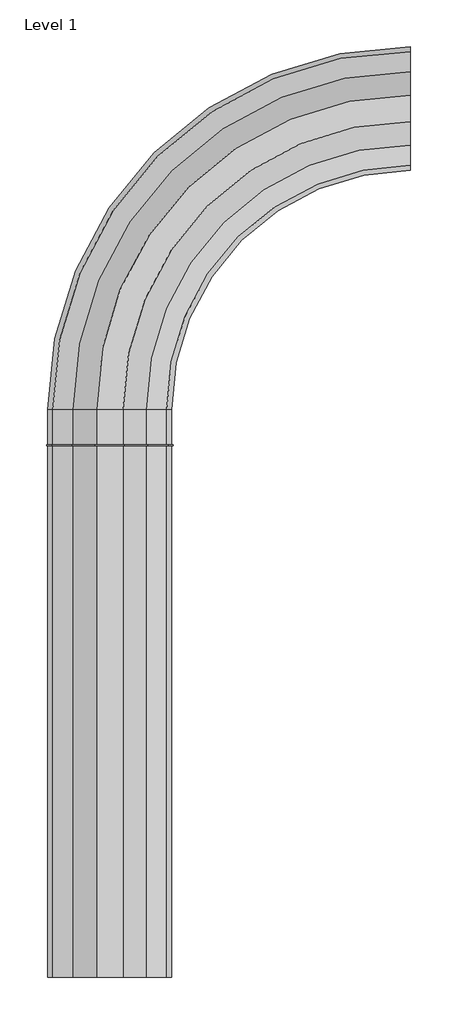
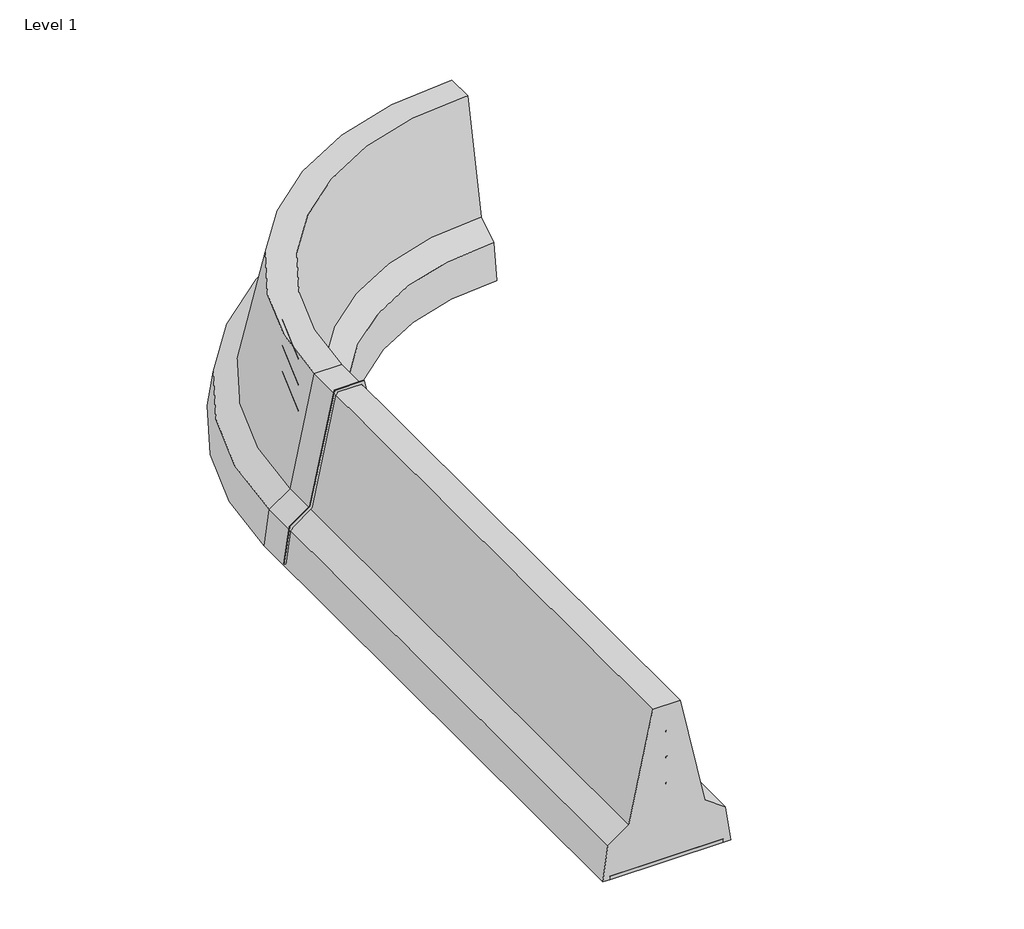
# One storey: 1 railing.
"""IFC4 building model written with IfcOpenShell, lengths in millimetres."""

from ifc_helpers import new_model, si_unit, point, frame, origin, place, context, project, spatial, polyline, circle_curve, ellipse_curve, trimmed, outline, extrude, element, save
from ifc_brep_helpers import plane_surface, cylinder_surface, revolved_surface, advanced_brep

model = new_model("IFC4")

# Units and contexts
model_context = context("Model", 3, world=origin())
ifc_project = project(units=[si_unit("LENGTHUNIT", "METRE", prefix="MILLI")], contexts=[model_context])

# Site, building, storey
site = spatial("IfcSite", under=ifc_project)
building = spatial("IfcBuilding", under=site)
storey = spatial("IfcBuildingStorey", under=building, Name="Level 1", Elevation=0.0)

# Railing
placement = place(None, origin())
element("IfcRailing", 1, ObjectType="BHDEG0-0a-H2", at=placement, inside=storey, context=model_context, shape_type="SolidModel", body=[
    advanced_brep(
    [(-75.0, 0.0, 900.0), (-207.0, 0.0, 280.0), (-321.0, 0.0, 200.0), (-349.0, 0.0, 0.0), (-310.0, 0.0, 0.0), (-310.0, 0.0, 20.0), (310.0, 0.0, 20.0), (310.0, 0.0, 0.0), (349.0, 0.0, 0.0), (321.0, 0.0, 200.0), (207.0, 0.0, 280.0), (75.0, 0.0, 900.0), (-75.0, 3200.0, 900.0), (-207.0, 3200.0, 280.0), (-321.0, 3200.0, 200.0), (-349.0, 3200.0, 0.0), (-310.0, 3200.0, 0.0), (-310.0, 3200.0, 20.0), (310.0, 3200.0, 20.0), (310.0, 3200.0, 0.0), (349.0, 3200.0, 0.0), (321.0, 3200.0, 200.0), (207.0, 3200.0, 280.0), (75.0, 3200.0, 900.0), (1697.0562748, 5104.0562748, 280.0), (1697.0562748, 4972.0562748, 900.0), (1697.0562748, 5218.0562748, 200.0), (1697.0562748, 5246.0562748, 0.0), (1697.0562748, 5207.0562748, 0.0), (1697.0562748, 5207.0562748, 20.0), (1697.0562748, 4587.0562748, 20.0), (1697.0562748, 4587.0562748, 0.0), (1697.0562748, 4548.0562748, 0.0), (1697.0562748, 4576.0562748, 200.0), (1697.0562748, 4690.0562748, 280.0), (1697.0562748, 4822.0562748, 900.0)],
    [
        (0, 1),
        (1, 2),
        (2, 3),
        (3, 4),
        (4, 5),
        (5, 6),
        (6, 7),
        (7, 8),
        (8, 9),
        (9, 10),
        (10, 11),
        (11, 0),
        (0, 12),
        (12, 13),
        (13, 1),
        (13, 14),
        (14, 2),
        (14, 15),
        (15, 3),
        (15, 16),
        (16, 4),
        (16, 17),
        (17, 5),
        (17, 18),
        (18, 6),
        (18, 19),
        (19, 7),
        (19, 20),
        (20, 8),
        (20, 21),
        (21, 9),
        (21, 22),
        (22, 10),
        (22, 23),
        (23, 11),
        (23, 12),
        (24, 13, circle_curve(frame((1697.0562748, 3200.0, 280.0), z_axis=(0.0, 0.0, 1.0), x_axis=(-1.0, 0.0, 0.0)), 1904.0562748)),
        (12, 25, circle_curve(frame((1697.0562748, 3200.0, 900.0), z_axis=(0.0, 0.0, -1.0), x_axis=(-1.0, 0.0, 0.0)), 1772.0562748)),
        (25, 24),
        (26, 14, circle_curve(frame((1697.0562748, 3200.0, 200.0), z_axis=(0.0, 0.0, 1.0), x_axis=(-1.0, 0.0, 0.0)), 2018.0562748)),
        (24, 26),
        (27, 15, circle_curve(frame((1697.0562748, 3200.0, 0.0), z_axis=(0.0, 0.0, 1.0), x_axis=(-1.0, 0.0, 0.0)), 2046.0562748)),
        (26, 27),
        (28, 16, circle_curve(frame((1697.0562748, 3200.0, 0.0), z_axis=(0.0, 0.0, 1.0), x_axis=(-1.0, 0.0, 0.0)), 2007.0562748)),
        (27, 28),
        (29, 17, circle_curve(frame((1697.0562748, 3200.0, 20.0), z_axis=(0.0, 0.0, 1.0), x_axis=(-1.0, 0.0, 0.0)), 2007.0562748)),
        (28, 29),
        (30, 18, circle_curve(frame((1697.0562748, 3200.0, 20.0), z_axis=(0.0, 0.0, 1.0), x_axis=(-1.0, 0.0, 0.0)), 1387.0562748)),
        (29, 30),
        (31, 19, circle_curve(frame((1697.0562748, 3200.0, 0.0), z_axis=(0.0, 0.0, 1.0), x_axis=(-1.0, 0.0, 0.0)), 1387.0562748)),
        (30, 31),
        (32, 20, circle_curve(frame((1697.0562748, 3200.0, 0.0), z_axis=(0.0, 0.0, 1.0), x_axis=(-1.0, 0.0, 0.0)), 1348.0562748)),
        (31, 32),
        (33, 21, circle_curve(frame((1697.0562748, 3200.0, 200.0), z_axis=(0.0, 0.0, 1.0), x_axis=(-1.0, 0.0, 0.0)), 1376.0562748)),
        (32, 33),
        (34, 22, circle_curve(frame((1697.0562748, 3200.0, 280.0), z_axis=(0.0, 0.0, 1.0), x_axis=(-1.0, 0.0, 0.0)), 1490.0562748)),
        (33, 34),
        (35, 23, circle_curve(frame((1697.0562748, 3200.0, 900.0), z_axis=(0.0, 0.0, 1.0), x_axis=(-1.0, 0.0, 0.0)), 1622.0562748)),
        (34, 35),
        (35, 25),
    ],
    [
        plane_surface(frame((0.0, 0.0, 900.0), z_axis=(0.0, -1.0, 0.0), x_axis=(0.0, 0.0, 1.0))),
        plane_surface(frame((-75.0, 0.0, 900.0), z_axis=(-0.9780785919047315, 0.0, 0.20823608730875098), x_axis=(0.0, 1.0, 0.0))),
        plane_surface(frame((-207.0, 0.0, 280.0), z_axis=(-0.5744257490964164, 0.0, 0.8185566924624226), x_axis=(0.0, 1.0, 0.0))),
        plane_surface(frame((-321.0, 0.0, 200.0), z_axis=(-0.9903417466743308, 0.0, 0.1386478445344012), x_axis=(0.0, 1.0, 0.0))),
        plane_surface(frame((-349.0, 0.0, 0.0), z_axis=(0.0, 0.0, -1.0), x_axis=(0.0, 1.0, 0.0))),
        plane_surface(frame((-310.0, 0.0, 0.0), z_axis=(1.0, 0.0, 0.0), x_axis=(0.0, 1.0, 0.0))),
        plane_surface(frame((-310.0, 0.0, 20.0), z_axis=(0.0, 0.0, -1.0), x_axis=(0.0, 1.0, 0.0))),
        plane_surface(frame((310.0, 0.0, 20.0), z_axis=(-1.0, 0.0, 0.0), x_axis=(0.0, 1.0, 0.0))),
        plane_surface(frame((310.0, 0.0, 0.0), z_axis=(0.0, 0.0, -1.0), x_axis=(0.0, 1.0, 0.0))),
        plane_surface(frame((349.0, 0.0, 0.0), z_axis=(0.9903417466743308, 0.0, 0.1386478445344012), x_axis=(0.0, 1.0, 0.0))),
        plane_surface(frame((321.0, 0.0, 200.0), z_axis=(0.5744257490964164, 0.0, 0.8185566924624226), x_axis=(0.0, 1.0, 0.0))),
        plane_surface(frame((207.0, 0.0, 280.0), z_axis=(0.9780785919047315, 0.0, 0.20823608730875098), x_axis=(0.0, 1.0, 0.0))),
        plane_surface(frame((75.0, 0.0, 900.0), z_axis=(0.0, 0.0, 1.0), x_axis=(0.0, 1.0, 0.0))),
        revolved_surface(polyline([(-75.0, 3200.0, 900.0), (-207.0, 3200.0, 280.0)]), (1697.0562748, 3200.0, 900.0), (0.0, 0.0, -1.0)),
        revolved_surface(polyline([(-207.0, 3200.0, 280.0), (-321.0, 3200.0, 200.0)]), (1697.0562748, 3200.0, 900.0), (0.0, 0.0, -1.0)),
        revolved_surface(polyline([(-321.0, 3200.0, 200.0), (-349.0, 3200.0, 0.0)]), (1697.0562748, 3200.0, 900.0), (0.0, 0.0, -1.0)),
        plane_surface(frame((1697.0562748, 3200.0, 0.0), z_axis=(0.0, 0.0, -1.0), x_axis=(-1.0, 0.0, 0.0))),
        revolved_surface(polyline([(-310.0, 3200.0, 0.0), (-310.0, 3200.0, 20.0)]), (1697.0562748, 3200.0, 900.0), (0.0, 0.0, -1.0)),
        plane_surface(frame((1697.0562748, 3200.0, 20.0), z_axis=(0.0, 0.0, -1.0), x_axis=(-1.0, 0.0, 0.0))),
        cylinder_surface(frame((1697.0562748, 3200.0, 900.0), z_axis=(0.0, 0.0, -1.0), x_axis=(-1.0, 0.0, 0.0)), 1387.0562748),
        revolved_surface(polyline([(349.0, 3200.0, 0.0), (321.0, 3200.0, 200.0)]), (1697.0562748, 3200.0, 900.0), (0.0, 0.0, -1.0)),
        revolved_surface(polyline([(321.0, 3200.0, 200.0), (207.0, 3200.0, 280.0)]), (1697.0562748, 3200.0, 900.0), (0.0, 0.0, -1.0)),
        revolved_surface(polyline([(207.0, 3200.0, 280.0), (75.0, 3200.0, 900.0)]), (1697.0562748, 3200.0, 900.0), (0.0, 0.0, -1.0)),
        plane_surface(frame((1697.0562748, 3200.0, 900.0), z_axis=(0.0, 0.0, 1.0), x_axis=(-1.0, 0.0, 0.0))),
        plane_surface(frame((1697.0562748, 4897.0562748, 900.0), z_axis=(1.0, 0.0, 0.0), x_axis=(0.0, 1.0, 0.0))),
    ],
    [
        (0, [[1, 2, 3, 4, 5, 6, 7, 8, 9, 10, 11, 12]]),
        (1, [[-1, 13, 14, 15]]),
        (2, [[-2, -15, 16, 17]]),
        (3, [[-3, -17, 18, 19]]),
        (4, [[-4, -19, 20, 21]]),
        (5, [[-5, -21, 22, 23]]),
        (6, [[-6, -23, 24, 25]]),
        (7, [[-7, -25, 26, 27]]),
        (8, [[-8, -27, 28, 29]]),
        (9, [[-9, -29, 30, 31]]),
        (10, [[-10, -31, 32, 33]]),
        (11, [[-11, -33, 34, 35]]),
        (12, [[-12, -35, 36, -13]]),
        (13, [[37, -14, 38, 39]]),
        (14, [[40, -16, -37, 41]]),
        (15, [[42, -18, -40, 43]]),
        (16, [[44, -20, -42, 45]]),
        (17, [[46, -22, -44, 47]]),
        (18, [[48, -24, -46, 49]]),
        (19, [[50, -26, -48, 51]]),
        (16, [[52, -28, -50, 53]]),
        (20, [[54, -30, -52, 55]]),
        (21, [[56, -32, -54, 57]]),
        (22, [[58, -34, -56, 59]]),
        (23, [[-38, -36, -58, 60]]),
        (24, [[-60, -59, -57, -55, -53, -51, -49, -47, -45, -43, -41, -39]]),
    ],
),
    advanced_brep(
    [(-6.0, 0.0, 750.0), (6.0, 0.0, 750.0), (-6.0, 3200.0, 750.0), (6.0, 3200.0, 750.0), (1697.0562748, 4891.0562748, 750.0), (1697.0562748, 4903.0562748, 750.0)],
    [
        (0, 1, circle_curve(frame((0.0, 0.0, 750.0), z_axis=(0.0, -1.0, 0.0), x_axis=(1.0, 0.0, 0.0)), 6.0)),
        (1, 0, circle_curve(frame((0.0, 0.0, 750.0), z_axis=(0.0, -1.0, 0.0), x_axis=(1.0, 0.0, 0.0)), 6.0)),
        (0, 2),
        (2, 3, circle_curve(frame((0.0, 3200.0, 750.0), z_axis=(0.0, -1.0, 0.0), x_axis=(1.0, 0.0, 0.0)), 6.0)),
        (3, 1),
        (3, 2, circle_curve(frame((0.0, 3200.0, 750.0), z_axis=(0.0, -1.0, 0.0), x_axis=(1.0, 0.0, 0.0)), 6.0)),
        (4, 3, circle_curve(frame((1697.0562748, 3200.0, 750.0), z_axis=(0.0, 0.0, 1.0), x_axis=(-1.0, 0.0, 0.0)), 1691.0562748)),
        (2, 5, circle_curve(frame((1697.0562748, 3200.0, 750.0), z_axis=(0.0, 0.0, -1.0), x_axis=(-1.0, 0.0, 0.0)), 1703.0562748)),
        (5, 4, circle_curve(frame((1697.0562748, 4897.0562748, 750.0), z_axis=(-1.0, 0.0, 0.0), x_axis=(0.0, -1.0, 0.0)), 6.0)),
        (4, 5, circle_curve(frame((1697.0562748, 4897.0562748, 750.0), z_axis=(-1.0, 0.0, 0.0), x_axis=(0.0, -1.0, 0.0)), 6.0)),
    ],
    [
        plane_surface(frame((0.0, 0.0, 750.0), z_axis=(0.0, -1.0, 0.0), x_axis=(0.0, 0.0, 1.0))),
        cylinder_surface(frame((0.0, 0.0, 750.0), z_axis=(0.0, -1.0, 0.0), x_axis=(1.0, 0.0, 0.0)), 6.0),
        revolved_surface(trimmed(ellipse_curve(frame((0.0, 3200.0, 750.0), z_axis=(0.0, -1.0, 0.0), x_axis=(1.0, 0.0, 0.0)), 6.0, 6.0), [point((-6.0, 3200.0, 750.0))], [point((6.0, 3200.0, 750.0))], True, "CARTESIAN"), (1697.0562748, 3200.0, 750.0), (0.0, 0.0, -1.0)),
        revolved_surface(trimmed(ellipse_curve(frame((0.0, 3200.0, 750.0), z_axis=(0.0, -1.0, 0.0), x_axis=(1.0, 0.0, 0.0)), 6.0, 6.0), [point((6.0, 3200.0, 750.0))], [point((-6.0, 3200.0, 750.0))], True, "CARTESIAN"), (1697.0562748, 3200.0, 750.0), (0.0, 0.0, -1.0)),
        plane_surface(frame((1697.0562748, 4897.0562748, 750.0), z_axis=(1.0, 0.0, 0.0), x_axis=(0.0, 1.0, 0.0))),
    ],
    [
        (0, [[1, 2]]),
        (1, [[-1, 3, 4, 5]]),
        (1, [[-2, -5, 6, -3]]),
        (2, [[7, -4, 8, 9]]),
        (3, [[-8, -6, -7, 10]]),
        (4, [[-10, -9]]),
    ],
),
    advanced_brep(
    [(-6.0, 0.0, 600.0), (6.0, 0.0, 600.0), (-6.0, 3200.0, 600.0), (6.0, 3200.0, 600.0), (1697.0562748, 4891.0562748, 600.0), (1697.0562748, 4903.0562748, 600.0)],
    [
        (0, 1, circle_curve(frame((0.0, 0.0, 600.0), z_axis=(0.0, -1.0, 0.0), x_axis=(1.0, 0.0, 0.0)), 6.0)),
        (1, 0, circle_curve(frame((0.0, 0.0, 600.0), z_axis=(0.0, -1.0, 0.0), x_axis=(1.0, 0.0, 0.0)), 6.0)),
        (0, 2),
        (2, 3, circle_curve(frame((0.0, 3200.0, 600.0), z_axis=(0.0, -1.0, 0.0), x_axis=(1.0, 0.0, 0.0)), 6.0)),
        (3, 1),
        (3, 2, circle_curve(frame((0.0, 3200.0, 600.0), z_axis=(0.0, -1.0, 0.0), x_axis=(1.0, 0.0, 0.0)), 6.0)),
        (4, 3, circle_curve(frame((1697.0562748, 3200.0, 600.0), z_axis=(0.0, 0.0, 1.0), x_axis=(-1.0, 0.0, 0.0)), 1691.0562748)),
        (2, 5, circle_curve(frame((1697.0562748, 3200.0, 600.0), z_axis=(0.0, 0.0, -1.0), x_axis=(-1.0, 0.0, 0.0)), 1703.0562748)),
        (5, 4, circle_curve(frame((1697.0562748, 4897.0562748, 600.0), z_axis=(-1.0, 0.0, 0.0), x_axis=(0.0, -1.0, 0.0)), 6.0)),
        (4, 5, circle_curve(frame((1697.0562748, 4897.0562748, 600.0), z_axis=(-1.0, 0.0, 0.0), x_axis=(0.0, -1.0, 0.0)), 6.0)),
    ],
    [
        plane_surface(frame((0.0, 0.0, 600.0), z_axis=(0.0, -1.0, 0.0), x_axis=(0.0, 0.0, 1.0))),
        cylinder_surface(frame((0.0, 0.0, 600.0), z_axis=(0.0, -1.0, 0.0), x_axis=(1.0, 0.0, 0.0)), 6.0),
        revolved_surface(trimmed(ellipse_curve(frame((0.0, 3200.0, 600.0), z_axis=(0.0, -1.0, 0.0), x_axis=(1.0, 0.0, 0.0)), 6.0, 6.0), [point((-6.0, 3200.0, 600.0))], [point((6.0, 3200.0, 600.0))], True, "CARTESIAN"), (1697.0562748, 3200.0, 600.0), (0.0, 0.0, -1.0)),
        revolved_surface(trimmed(ellipse_curve(frame((0.0, 3200.0, 600.0), z_axis=(0.0, -1.0, 0.0), x_axis=(1.0, 0.0, 0.0)), 6.0, 6.0), [point((6.0, 3200.0, 600.0))], [point((-6.0, 3200.0, 600.0))], True, "CARTESIAN"), (1697.0562748, 3200.0, 600.0), (0.0, 0.0, -1.0)),
        plane_surface(frame((1697.0562748, 4897.0562748, 600.0), z_axis=(1.0, 0.0, 0.0), x_axis=(0.0, 1.0, 0.0))),
    ],
    [
        (0, [[1, 2]]),
        (1, [[-1, 3, 4, 5]]),
        (1, [[-2, -5, 6, -3]]),
        (2, [[7, -4, 8, 9]]),
        (3, [[-8, -6, -7, 10]]),
        (4, [[-10, -9]]),
    ],
),
    advanced_brep(
    [(-6.0, 0.0, 450.0), (6.0, 0.0, 450.0), (-6.0, 3200.0, 450.0), (6.0, 3200.0, 450.0), (1697.0562748, 4891.0562748, 450.0), (1697.0562748, 4903.0562748, 450.0)],
    [
        (0, 1, circle_curve(frame((0.0, 0.0, 450.0), z_axis=(0.0, -1.0, 0.0), x_axis=(1.0, 0.0, 0.0)), 6.0)),
        (1, 0, circle_curve(frame((0.0, 0.0, 450.0), z_axis=(0.0, -1.0, 0.0), x_axis=(1.0, 0.0, 0.0)), 6.0)),
        (0, 2),
        (2, 3, circle_curve(frame((0.0, 3200.0, 450.0), z_axis=(0.0, -1.0, 0.0), x_axis=(1.0, 0.0, 0.0)), 6.0)),
        (3, 1),
        (3, 2, circle_curve(frame((0.0, 3200.0, 450.0), z_axis=(0.0, -1.0, 0.0), x_axis=(1.0, 0.0, 0.0)), 6.0)),
        (4, 3, circle_curve(frame((1697.0562748, 3200.0, 450.0), z_axis=(0.0, 0.0, 1.0), x_axis=(-1.0, 0.0, 0.0)), 1691.0562748)),
        (2, 5, circle_curve(frame((1697.0562748, 3200.0, 450.0), z_axis=(0.0, 0.0, -1.0), x_axis=(-1.0, 0.0, 0.0)), 1703.0562748)),
        (5, 4, circle_curve(frame((1697.0562748, 4897.0562748, 450.0), z_axis=(-1.0, 0.0, 0.0), x_axis=(0.0, -1.0, 0.0)), 6.0)),
        (4, 5, circle_curve(frame((1697.0562748, 4897.0562748, 450.0), z_axis=(-1.0, 0.0, 0.0), x_axis=(0.0, -1.0, 0.0)), 6.0)),
    ],
    [
        plane_surface(frame((0.0, 0.0, 450.0), z_axis=(0.0, -1.0, 0.0), x_axis=(0.0, 0.0, 1.0))),
        cylinder_surface(frame((0.0, 0.0, 450.0), z_axis=(0.0, -1.0, 0.0), x_axis=(1.0, 0.0, 0.0)), 6.0),
        revolved_surface(trimmed(ellipse_curve(frame((0.0, 3200.0, 450.0), z_axis=(0.0, -1.0, 0.0), x_axis=(1.0, 0.0, 0.0)), 6.0, 6.0), [point((-6.0, 3200.0, 450.0))], [point((6.0, 3200.0, 450.0))], True, "CARTESIAN"), (1697.0562748, 3200.0, 450.0), (0.0, 0.0, -1.0)),
        revolved_surface(trimmed(ellipse_curve(frame((0.0, 3200.0, 450.0), z_axis=(0.0, -1.0, 0.0), x_axis=(1.0, 0.0, 0.0)), 6.0, 6.0), [point((6.0, 3200.0, 450.0))], [point((-6.0, 3200.0, 450.0))], True, "CARTESIAN"), (1697.0562748, 3200.0, 450.0), (0.0, 0.0, -1.0)),
        plane_surface(frame((1697.0562748, 4897.0562748, 450.0), z_axis=(1.0, 0.0, 0.0), x_axis=(0.0, 1.0, 0.0))),
    ],
    [
        (0, [[1, 2]]),
        (1, [[-1, 3, 4, 5]]),
        (1, [[-2, -5, 6, -3]]),
        (2, [[7, -4, 8, 9]]),
        (3, [[-8, -6, -7, 10]]),
        (4, [[-10, -9]]),
    ],
),
    advanced_brep(
    [(310.0, 0.0, 20.0), (-310.0, 0.0, 20.0), (-310.0, 0.0, 0.0), (310.0, 0.0, 0.0), (310.0, 3200.0, 20.0), (-310.0, 3200.0, 20.0), (-310.0, 3200.0, 0.0), (310.0, 3200.0, 0.0), (1697.0562748, 5207.0562748, 20.0), (1697.0562748, 4587.0562748, 20.0), (1697.0562748, 5207.0562748, 0.0), (1697.0562748, 4587.0562748, 0.0)],
    [
        (0, 1),
        (1, 2),
        (2, 3),
        (3, 0),
        (0, 4),
        (4, 5),
        (5, 1),
        (5, 6),
        (6, 2),
        (6, 7),
        (7, 3),
        (7, 4),
        (8, 5, circle_curve(frame((1697.0562748, 3200.0, 20.0), z_axis=(0.0, 0.0, 1.0), x_axis=(-1.0, 0.0, 0.0)), 2007.0562748)),
        (4, 9, circle_curve(frame((1697.0562748, 3200.0, 20.0), z_axis=(0.0, 0.0, -1.0), x_axis=(-1.0, 0.0, 0.0)), 1387.0562748)),
        (9, 8),
        (10, 6, circle_curve(frame((1697.0562748, 3200.0, 0.0), z_axis=(0.0, 0.0, 1.0), x_axis=(-1.0, 0.0, 0.0)), 2007.0562748)),
        (8, 10),
        (11, 7, circle_curve(frame((1697.0562748, 3200.0, 0.0), z_axis=(0.0, 0.0, 1.0), x_axis=(-1.0, 0.0, 0.0)), 1387.0562748)),
        (10, 11),
        (11, 9),
    ],
    [
        plane_surface(frame((0.0, 0.0, 10.0), z_axis=(0.0, -1.0, 0.0), x_axis=(0.0, 0.0, 1.0))),
        plane_surface(frame((310.0, 0.0, 20.0), z_axis=(0.0, 0.0, 1.0), x_axis=(0.0, 1.0, 0.0))),
        plane_surface(frame((-310.0, 0.0, 20.0), z_axis=(-1.0, 0.0, 0.0), x_axis=(0.0, 1.0, 0.0))),
        plane_surface(frame((-310.0, 0.0, 0.0), z_axis=(0.0, 0.0, -1.0), x_axis=(0.0, 1.0, 0.0))),
        plane_surface(frame((310.0, 0.0, 0.0), z_axis=(1.0, 0.0, 0.0), x_axis=(0.0, 1.0, 0.0))),
        plane_surface(frame((1697.0562748, 3200.0, 20.0), z_axis=(0.0, 0.0, 1.0), x_axis=(-1.0, 0.0, 0.0))),
        cylinder_surface(frame((1697.0562748, 3200.0, 10.0), z_axis=(0.0, 0.0, -1.0), x_axis=(-1.0, 0.0, 0.0)), 2007.0562748),
        plane_surface(frame((1697.0562748, 3200.0, 0.0), z_axis=(0.0, 0.0, -1.0), x_axis=(-1.0, 0.0, 0.0))),
        revolved_surface(polyline([(310.0, 3200.0, 0.0), (310.0, 3200.0, 20.0)]), (1697.0562748, 3200.0, 10.0), (0.0, 0.0, -1.0)),
        plane_surface(frame((1697.0562748, 4897.0562748, 10.0), z_axis=(1.0, 0.0, 0.0), x_axis=(0.0, 1.0, 0.0))),
    ],
    [
        (0, [[1, 2, 3, 4]]),
        (1, [[-1, 5, 6, 7]]),
        (2, [[-2, -7, 8, 9]]),
        (3, [[-3, -9, 10, 11]]),
        (4, [[-4, -11, 12, -5]]),
        (5, [[13, -6, 14, 15]]),
        (6, [[16, -8, -13, 17]]),
        (7, [[18, -10, -16, 19]]),
        (8, [[-14, -12, -18, 20]]),
        (9, [[-20, -19, -17, -15]]),
    ],
),
    extrude(outline(polyline([(927.5, -81.0713213), (304.445538, -213.7216261), (224.2672175, -327.9757329), (20.0, -356.5731433), (20.0, -341.4268567), (215.7327825, -314.0242671), (295.554462, -200.2783739), (912.5, -68.9286787), (912.5, 68.9286787), (295.554462, 200.2783739), (215.7327825, 314.0242671), (20.0, 341.4268567), (20.0, 356.5731433), (224.2672175, 327.9757329), (304.445538, 213.7216261), (927.5, 81.0713213), (927.5, -81.0713213)])), frame((0.0, 2997.5, 0.0), z_axis=(0.0, 1.0, 0.0), x_axis=(0.0, 0.0, 1.0)), (0.0, 0.0, 1.0), 5.0),
])

save(model, "model.ifc")
